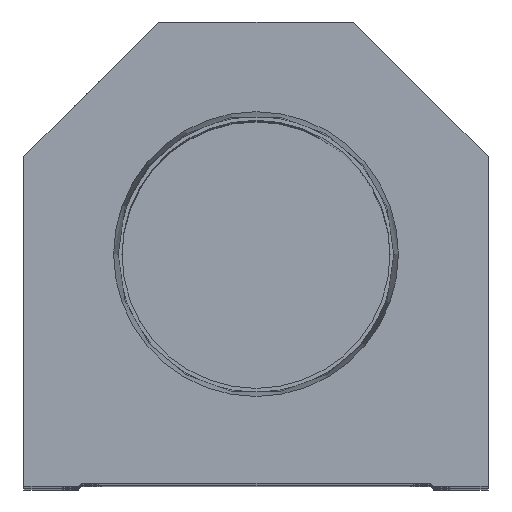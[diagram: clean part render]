
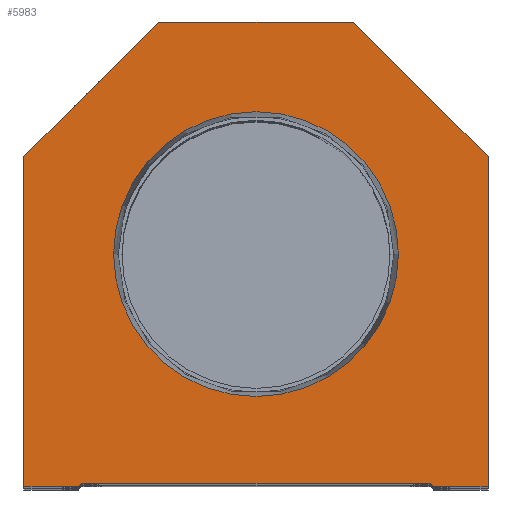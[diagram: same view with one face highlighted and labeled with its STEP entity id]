
A CAD part, top view. The second image highlights one B-rep face of the part: STEP entity #5983.
In plain terms, the highlighted planar face has unit normal (0, 0, 1).
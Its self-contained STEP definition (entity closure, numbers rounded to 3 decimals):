
#251 = EDGE_CURVE ( 'NONE', #294, #20531, #2865, .T. ) ;
#294 = VERTEX_POINT ( 'NONE', #16302 ) ;
#405 = CARTESIAN_POINT ( 'NONE',  ( 14.55, 14.55, 0. ) ) ;
#531 = VERTEX_POINT ( 'NONE', #3568 ) ;
#810 = VERTEX_POINT ( 'NONE', #19737 ) ;
#1494 = LINE ( 'NONE', #16921, #11741 ) ;
#1736 = CARTESIAN_POINT ( 'NONE',  ( 16., 76.2, 0. ) ) ;
#1785 = VECTOR ( 'NONE', #11325, 1000. ) ;
#1996 = VECTOR ( 'NONE', #2364, 1000. ) ;
#2364 = DIRECTION ( 'NONE',  ( -0.707, 0.707, 0. ) ) ;
#2434 = PLANE ( 'NONE',  #10174 ) ;
#2865 = LINE ( 'NONE', #15931, #8004 ) ;
#3213 = ORIENTED_EDGE ( 'NONE', *, *, #24878, .T. ) ;
#3285 = ORIENTED_EDGE ( 'NONE', *, *, #17954, .T. ) ;
#3536 = DIRECTION ( 'NONE',  ( 1., 0., 0. ) ) ;
#3568 = CARTESIAN_POINT ( 'NONE',  ( 16., 76.2, 0. ) ) ;
#3637 = LINE ( 'NONE', #1736, #15506 ) ;
#3862 = VECTOR ( 'NONE', #10928, 1000. ) ;
#3935 = VERTEX_POINT ( 'NONE', #16262 ) ;
#4070 = ORIENTED_EDGE ( 'NONE', *, *, #17016, .T. ) ;
#4263 = LINE ( 'NONE', #11945, #24293 ) ;
#4525 = EDGE_CURVE ( 'NONE', #24565, #294, #9870, .T. ) ;
#4673 = DIRECTION ( 'NONE',  ( 1., 0., 0. ) ) ;
#4733 = EDGE_CURVE ( 'NONE', #20531, #3935, #4263, .T. ) ;
#5131 = LINE ( 'NONE', #20572, #3862 ) ;
#5155 = CARTESIAN_POINT ( 'NONE',  ( -16., 76.2, 0. ) ) ;
#5166 = CARTESIAN_POINT ( 'NONE',  ( 38.1, 0., 0. ) ) ;
#5313 = DIRECTION ( 'NONE',  ( 1., 0., 0. ) ) ;
#5607 = DIRECTION ( 'NONE',  ( 0.707, -0.707, 0. ) ) ;
#5983 = ADVANCED_FACE ( 'NONE', ( #19801, #12412 ), #2434, .T. ) ;
#6266 = ORIENTED_EDGE ( 'NONE', *, *, #251, .T. ) ;
#6323 = CARTESIAN_POINT ( 'NONE',  ( 23.374, 38.1, 0. ) ) ;
#6331 = CARTESIAN_POINT ( 'NONE',  ( 38.1, 54.1, 0. ) ) ;
#6601 = ORIENTED_EDGE ( 'NONE', *, *, #12642, .F. ) ;
#6794 = EDGE_LOOP ( 'NONE', ( #6266, #12252, #18308, #21916, #3285, #6816, #3213, #8301, #4070, #14192 ) ) ;
#6816 = ORIENTED_EDGE ( 'NONE', *, *, #11445, .T. ) ;
#6828 = VERTEX_POINT ( 'NONE', #17312 ) ;
#6941 = DIRECTION ( 'NONE',  ( 0., 0., 1. ) ) ;
#7338 = EDGE_LOOP ( 'NONE', ( #16251, #6601 ) ) ;
#7397 = CARTESIAN_POINT ( 'NONE',  ( -38.1, 54.1, 0. ) ) ;
#7565 = CARTESIAN_POINT ( 'NONE',  ( -29.1, 0., 0. ) ) ;
#7789 = AXIS2_PLACEMENT_3D ( 'NONE', #22631, #6941, #5313 ) ;
#8004 = VECTOR ( 'NONE', #4673, 1000. ) ;
#8301 = ORIENTED_EDGE ( 'NONE', *, *, #12921, .T. ) ;
#8611 = VERTEX_POINT ( 'NONE', #6331 ) ;
#9829 = EDGE_CURVE ( 'NONE', #24946, #6828, #17761, .T. ) ;
#9870 = LINE ( 'NONE', #13784, #23902 ) ;
#10158 = CARTESIAN_POINT ( 'NONE',  ( 0., 0., 0. ) ) ;
#10174 = AXIS2_PLACEMENT_3D ( 'NONE', #10158, #22054, #14207 ) ;
#10601 = EDGE_CURVE ( 'NONE', #3935, #24946, #1494, .T. ) ;
#10928 = DIRECTION ( 'NONE',  ( 1., 0., 0. ) ) ;
#11224 = DIRECTION ( 'NONE',  ( 0., 1., 0. ) ) ;
#11325 = DIRECTION ( 'NONE',  ( -0.707, -0.707, 0. ) ) ;
#11445 = EDGE_CURVE ( 'NONE', #810, #8611, #22486, .T. ) ;
#11608 = DIRECTION ( 'NONE',  ( 0., 0., 1. ) ) ;
#11741 = VECTOR ( 'NONE', #18588, 1000. ) ;
#11945 = CARTESIAN_POINT ( 'NONE',  ( -14.55, 14.55, 0. ) ) ;
#12143 = VECTOR ( 'NONE', #5607, 1000. ) ;
#12252 = ORIENTED_EDGE ( 'NONE', *, *, #4733, .T. ) ;
#12412 = FACE_OUTER_BOUND ( 'NONE', #6794, .T. ) ;
#12642 = EDGE_CURVE ( 'NONE', #20294, #17391, #13443, .T. ) ;
#12921 = EDGE_CURVE ( 'NONE', #531, #25021, #3637, .T. ) ;
#13443 = CIRCLE ( 'NONE', #7789, 23.374 ) ;
#13784 = CARTESIAN_POINT ( 'NONE',  ( -38.1, 0., 0. ) ) ;
#14192 = ORIENTED_EDGE ( 'NONE', *, *, #4525, .T. ) ;
#14207 = DIRECTION ( 'NONE',  ( 1., 0., 0. ) ) ;
#15278 = DIRECTION ( 'NONE',  ( -1., 0., 0. ) ) ;
#15301 = CARTESIAN_POINT ( 'NONE',  ( 0., 38.1, 0. ) ) ;
#15506 = VECTOR ( 'NONE', #15278, 1000. ) ;
#15931 = CARTESIAN_POINT ( 'NONE',  ( -28.6, 0., 0. ) ) ;
#16251 = ORIENTED_EDGE ( 'NONE', *, *, #24858, .F. ) ;
#16262 = CARTESIAN_POINT ( 'NONE',  ( -28.6, 0.5, 0. ) ) ;
#16302 = CARTESIAN_POINT ( 'NONE',  ( -38.1, 0., 0. ) ) ;
#16921 = CARTESIAN_POINT ( 'NONE',  ( -28.6, 0.5, 0. ) ) ;
#17016 = EDGE_CURVE ( 'NONE', #25021, #24565, #24751, .T. ) ;
#17297 = DIRECTION ( 'NONE',  ( 0.707, 0.707, 0. ) ) ;
#17312 = CARTESIAN_POINT ( 'NONE',  ( 29.1, 0., 0. ) ) ;
#17391 = VERTEX_POINT ( 'NONE', #6323 ) ;
#17761 = LINE ( 'NONE', #405, #12143 ) ;
#17866 = DIRECTION ( 'NONE',  ( 0., -1., 0. ) ) ;
#17954 = EDGE_CURVE ( 'NONE', #6828, #810, #5131, .T. ) ;
#18088 = CARTESIAN_POINT ( 'NONE',  ( 28.6, 0.5, 0. ) ) ;
#18116 = CARTESIAN_POINT ( 'NONE',  ( -38.1, 54.1, 0. ) ) ;
#18308 = ORIENTED_EDGE ( 'NONE', *, *, #10601, .T. ) ;
#18588 = DIRECTION ( 'NONE',  ( 1., 0., 0. ) ) ;
#19510 = CARTESIAN_POINT ( 'NONE',  ( -23.374, 38.1, 0. ) ) ;
#19737 = CARTESIAN_POINT ( 'NONE',  ( 38.1, 0., 0. ) ) ;
#19801 = FACE_BOUND ( 'NONE', #7338, .T. ) ;
#20294 = VERTEX_POINT ( 'NONE', #19510 ) ;
#20300 = VECTOR ( 'NONE', #11224, 1000. ) ;
#20531 = VERTEX_POINT ( 'NONE', #7565 ) ;
#20572 = CARTESIAN_POINT ( 'NONE',  ( 28.6, 0., 0. ) ) ;
#20603 = AXIS2_PLACEMENT_3D ( 'NONE', #15301, #11608, #3536 ) ;
#21916 = ORIENTED_EDGE ( 'NONE', *, *, #9829, .T. ) ;
#21992 = CARTESIAN_POINT ( 'NONE',  ( 38.1, 54.1, 0. ) ) ;
#22054 = DIRECTION ( 'NONE',  ( 0., 0., 1. ) ) ;
#22191 = CIRCLE ( 'NONE', #20603, 23.374 ) ;
#22486 = LINE ( 'NONE', #5166, #20300 ) ;
#22631 = CARTESIAN_POINT ( 'NONE',  ( 0., 38.1, 0. ) ) ;
#23879 = LINE ( 'NONE', #21992, #1996 ) ;
#23902 = VECTOR ( 'NONE', #17866, 1000. ) ;
#24293 = VECTOR ( 'NONE', #17297, 1000. ) ;
#24565 = VERTEX_POINT ( 'NONE', #18116 ) ;
#24751 = LINE ( 'NONE', #7397, #1785 ) ;
#24858 = EDGE_CURVE ( 'NONE', #17391, #20294, #22191, .T. ) ;
#24878 = EDGE_CURVE ( 'NONE', #8611, #531, #23879, .T. ) ;
#24946 = VERTEX_POINT ( 'NONE', #18088 ) ;
#25021 = VERTEX_POINT ( 'NONE', #5155 ) ;
